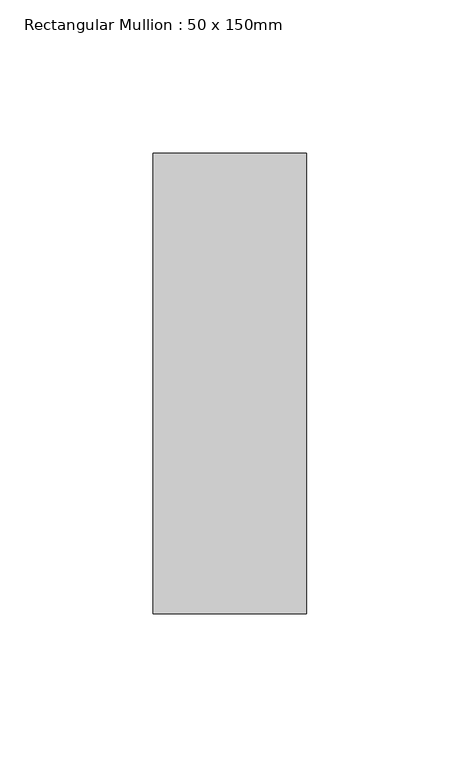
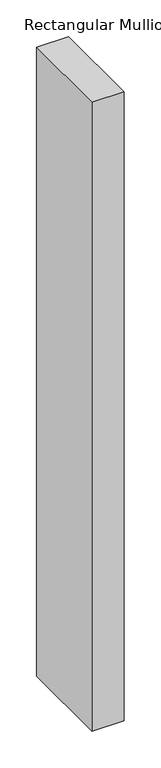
"""IFC4 building model written with IfcOpenShell, lengths in millimetres: member geometry, Rectangular Mullion : 50 x 150mm."""

from ifc_helpers import new_model, si_unit, frame, origin, place, context, project, spatial, polyline, outline, extrude, source, transform, mapped, element, save


def rectangular_mullion_50_x_150mm_10bb7c7a(model_context):
    return source(origin(), model_context, "Body", "SweptSolid", [
        extrude(outline(polyline([(0.0, 75.0), (0.0, -75.0), (-50.0, -75.0), (-50.0, 75.0), (0.0, 75.0)])), frame((0.0, 0.0, -1040.0), z_axis=(0.0, 0.0, 1.0), x_axis=(1.0, 0.0, 0.0)), (0.0, 0.0, 1.0), 1040.0),
    ])


if __name__ == "__main__":
    model = new_model("IFC4")
    model_context = context("Model", 3, world=origin())
    ifc_project = project(units=[si_unit("LENGTHUNIT", "METRE", prefix="MILLI")], contexts=[model_context])
    site = spatial("IfcSite", under=ifc_project)
    building = spatial("IfcBuilding", under=site)
    placement = place(None, origin())
    rectangular_mullion_50_x_150mm_shape = rectangular_mullion_50_x_150mm_10bb7c7a(model_context)
    element("IfcMember", 1, ObjectType="Rectangular Mullion : 50 x 150mm", at=placement, inside=building, context=model_context, shape_type="MappedRepresentation", body=[
        mapped(rectangular_mullion_50_x_150mm_shape, transform((0.0, 0.0, 0.0), x_axis=(1.0, 0.0, 0.0), y_axis=(0.0, 1.0, 0.0), z_axis=(0.0, 0.0, 1.0))),
    ])
    save(model, "model.ifc")
